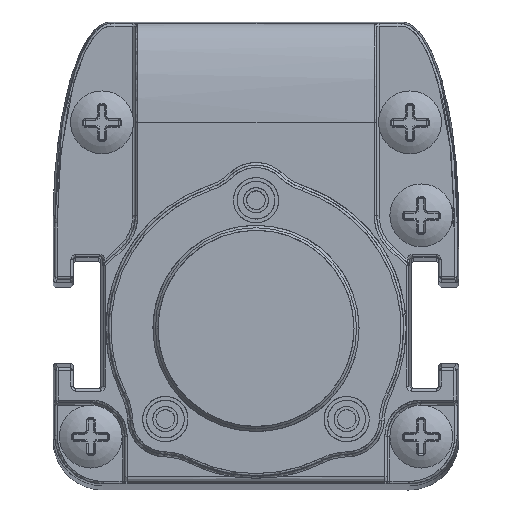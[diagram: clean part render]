
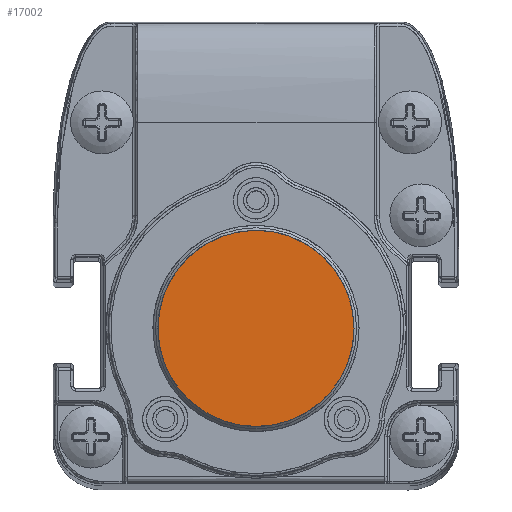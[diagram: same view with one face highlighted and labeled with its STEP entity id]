
A CAD part, top view. The second image highlights one B-rep face of the part: STEP entity #17002.
In plain terms, the highlighted planar face has unit normal (0, 0, 1).
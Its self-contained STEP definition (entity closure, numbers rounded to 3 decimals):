
#4976=FACE_OUTER_BOUND('',#19239,.T.);
#6383=PLANE('',#43173);
#17002=ADVANCED_FACE('',(#4976),#6383,.T.);
#19239=EDGE_LOOP('',(#24121));
#24121=ORIENTED_EDGE('',*,*,#33625,.T.);
#29073=VERTEX_POINT('',#72785);
#33625=EDGE_CURVE('',#29073,#29073,#38863,.T.);
#38863=B_SPLINE_CURVE_WITH_KNOTS('',3,(#72682,#72683,#72684,#72685,#72686,
#72687,#72688,#72689,#72690,#72691,#72692,#72693,#72694,#72695,#72696,#72697,
#72698,#72699,#72700,#72701,#72702,#72703,#72704,#72705,#72706,#72707,#72708,
#72709,#72710,#72711,#72712,#72713,#72714,#72715,#72716,#72717,#72718,#72719,
#72720,#72721,#72722,#72723,#72724,#72725,#72726,#72727,#72728,#72729,#72730,
#72731,#72732,#72733,#72734,#72735,#72736,#72737,#72738,#72739,#72740,#72741,
#72742,#72743,#72744,#72745,#72746,#72747,#72748,#72749,#72750,#72751,#72752,
#72753,#72754,#72755,#72756,#72757,#72758,#72759,#72760,#72761,#72762,#72763,
#72764,#72765,#72766,#72767,#72768,#72769,#72770,#72771,#72772,#72773,#72774,
#72775,#72776,#72777,#72778,#72779,#72780,#72781,#72782,#72783,#72784),
 .UNSPECIFIED.,.T.,.F.,(1,3,3,3,3,3,3,3,3,3,3,3,3,3,3,3,3,3,3,3,3,3,3,3,
3,3,3,3,3,3,3,3,3,3,3,3,1),(-0.029,0.,0.029,0.059,
0.088,0.118,0.147,0.176,
0.206,0.235,0.265,0.294,
0.324,0.353,0.382,0.412,
0.441,0.471,0.5,0.529,0.559,
0.588,0.618,0.647,0.676,
0.706,0.735,0.765,0.794,
0.824,0.853,0.882,0.912,
0.941,0.971,1.,1.029),.UNSPECIFIED.);
#43173=AXIS2_PLACEMENT_3D('',#72786,#47655,#47656);
#47655=DIRECTION('',(0.,0.,1.));
#47656=DIRECTION('',(1.,0.,0.));
#72682=CARTESIAN_POINT('',(7.8,0.,233.34));
#72683=CARTESIAN_POINT('',(7.8,0.465,233.34));
#72684=CARTESIAN_POINT('',(7.759,0.925,233.34));
#72685=CARTESIAN_POINT('',(7.679,1.376,233.34));
#72686=CARTESIAN_POINT('',(7.638,1.601,233.34));
#72687=CARTESIAN_POINT('',(7.588,1.825,233.34));
#72688=CARTESIAN_POINT('',(7.527,2.047,233.34));
#72689=CARTESIAN_POINT('',(7.466,2.269,233.34));
#72690=CARTESIAN_POINT('',(7.407,2.458,233.34));
#72691=CARTESIAN_POINT('',(7.315,2.708,233.34));
#72692=CARTESIAN_POINT('',(7.129,3.209,233.34));
#72693=CARTESIAN_POINT('',(6.898,3.683,233.34));
#72694=CARTESIAN_POINT('',(6.62,4.128,233.34));
#72695=CARTESIAN_POINT('',(6.343,4.573,233.34));
#72696=CARTESIAN_POINT('',(6.043,4.965,233.34));
#72697=CARTESIAN_POINT('',(5.651,5.376,233.34));
#72698=CARTESIAN_POINT('',(4.868,6.2,233.34));
#72699=CARTESIAN_POINT('',(3.912,6.837,233.34));
#72700=CARTESIAN_POINT('',(2.89,7.245,233.34));
#72701=CARTESIAN_POINT('',(2.378,7.449,233.34));
#72702=CARTESIAN_POINT('',(1.856,7.597,233.34));
#72703=CARTESIAN_POINT('',(1.324,7.689,233.34));
#72704=CARTESIAN_POINT('',(1.058,7.734,233.34));
#72705=CARTESIAN_POINT('',(0.79,7.766,233.34));
#72706=CARTESIAN_POINT('',(0.52,7.784,233.34));
#72707=CARTESIAN_POINT('',(0.249,7.801,233.34));
#72708=CARTESIAN_POINT('',(-0.055,7.804,233.34));
#72709=CARTESIAN_POINT('',(-0.3,7.794,233.34));
#72710=CARTESIAN_POINT('',(-0.79,7.775,233.34));
#72711=CARTESIAN_POINT('',(-1.271,7.712,233.34));
#72712=CARTESIAN_POINT('',(-1.742,7.604,233.34));
#72713=CARTESIAN_POINT('',(-2.213,7.496,233.34));
#72714=CARTESIAN_POINT('',(-2.713,7.327,233.34));
#72715=CARTESIAN_POINT('',(-3.123,7.147,233.34));
#72716=CARTESIAN_POINT('',(-3.534,6.968,233.34));
#72717=CARTESIAN_POINT('',(-3.924,6.757,233.34));
#72718=CARTESIAN_POINT('',(-4.293,6.513,233.34));
#72719=CARTESIAN_POINT('',(-4.477,6.392,233.34));
#72720=CARTESIAN_POINT('',(-4.656,6.262,233.34));
#72721=CARTESIAN_POINT('',(-4.83,6.125,233.34));
#72722=CARTESIAN_POINT('',(-5.004,5.987,233.34));
#72723=CARTESIAN_POINT('',(-5.15,5.864,233.34));
#72724=CARTESIAN_POINT('',(-5.337,5.688,233.34));
#72725=CARTESIAN_POINT('',(-5.712,5.337,233.34));
#72726=CARTESIAN_POINT('',(-6.047,4.956,233.34));
#72727=CARTESIAN_POINT('',(-6.341,4.545,233.34));
#72728=CARTESIAN_POINT('',(-6.635,4.134,233.34));
#72729=CARTESIAN_POINT('',(-6.869,3.738,233.34));
#72730=CARTESIAN_POINT('',(-7.102,3.226,233.34));
#72731=CARTESIAN_POINT('',(-7.567,2.203,233.34));
#72732=CARTESIAN_POINT('',(-7.8,1.124,233.34));
#72733=CARTESIAN_POINT('',(-7.8,0.,233.34));
#72734=CARTESIAN_POINT('',(-7.8,-0.562,233.34));
#72735=CARTESIAN_POINT('',(-7.742,-1.113,233.34));
#72736=CARTESIAN_POINT('',(-7.625,-1.651,233.34));
#72737=CARTESIAN_POINT('',(-7.509,-2.189,233.34));
#72738=CARTESIAN_POINT('',(-7.314,-2.758,233.34));
#72739=CARTESIAN_POINT('',(-7.102,-3.226,233.34));
#72740=CARTESIAN_POINT('',(-6.889,-3.694,233.34));
#72741=CARTESIAN_POINT('',(-6.636,-4.134,233.34));
#72742=CARTESIAN_POINT('',(-6.341,-4.544,233.34));
#72743=CARTESIAN_POINT('',(-6.194,-4.75,233.34));
#72744=CARTESIAN_POINT('',(-6.037,-4.947,233.34));
#72745=CARTESIAN_POINT('',(-5.87,-5.138,233.34));
#72746=CARTESIAN_POINT('',(-5.702,-5.329,233.34));
#72747=CARTESIAN_POINT('',(-5.5,-5.535,233.34));
#72748=CARTESIAN_POINT('',(-5.337,-5.688,233.34));
#72749=CARTESIAN_POINT('',(-5.01,-5.995,233.34));
#72750=CARTESIAN_POINT('',(-4.662,-6.27,233.34));
#72751=CARTESIAN_POINT('',(-4.293,-6.513,233.34));
#72752=CARTESIAN_POINT('',(-3.924,-6.756,233.34));
#72753=CARTESIAN_POINT('',(-3.573,-6.951,233.34));
#72754=CARTESIAN_POINT('',(-3.123,-7.147,233.34));
#72755=CARTESIAN_POINT('',(-2.674,-7.344,233.34));
#72756=CARTESIAN_POINT('',(-2.213,-7.496,233.34));
#72757=CARTESIAN_POINT('',(-1.743,-7.604,233.34));
#72758=CARTESIAN_POINT('',(-1.507,-7.658,233.34));
#72759=CARTESIAN_POINT('',(-1.269,-7.701,233.34));
#72760=CARTESIAN_POINT('',(-1.029,-7.732,233.34));
#72761=CARTESIAN_POINT('',(-0.789,-7.764,233.34));
#72762=CARTESIAN_POINT('',(-0.575,-7.784,233.34));
#72763=CARTESIAN_POINT('',(-0.3,-7.794,233.34));
#72764=CARTESIAN_POINT('',(0.801,-7.837,233.34));
#72765=CARTESIAN_POINT('',(1.834,-7.666,233.34));
#72766=CARTESIAN_POINT('',(2.89,-7.245,233.34));
#72767=CARTESIAN_POINT('',(3.417,-7.035,233.34));
#72768=CARTESIAN_POINT('',(3.912,-6.774,233.34));
#72769=CARTESIAN_POINT('',(4.372,-6.462,233.34));
#72770=CARTESIAN_POINT('',(4.833,-6.15,233.34));
#72771=CARTESIAN_POINT('',(5.283,-5.763,233.34));
#72772=CARTESIAN_POINT('',(5.651,-5.376,233.34));
#72773=CARTESIAN_POINT('',(6.019,-4.989,233.34));
#72774=CARTESIAN_POINT('',(6.342,-4.573,233.34));
#72775=CARTESIAN_POINT('',(6.62,-4.128,233.34));
#72776=CARTESIAN_POINT('',(6.759,-3.906,233.34));
#72777=CARTESIAN_POINT('',(6.886,-3.676,233.34));
#72778=CARTESIAN_POINT('',(7.002,-3.44,233.34));
#72779=CARTESIAN_POINT('',(7.117,-3.203,233.34));
#72780=CARTESIAN_POINT('',(7.234,-2.926,233.34));
#72781=CARTESIAN_POINT('',(7.315,-2.708,233.34));
#72782=CARTESIAN_POINT('',(7.638,-1.835,233.34));
#72783=CARTESIAN_POINT('',(7.8,-0.933,233.34));
#72784=CARTESIAN_POINT('',(7.8,0.,233.34));
#72785=CARTESIAN_POINT('',(7.8,0.,233.34));
#72786=CARTESIAN_POINT('',(-8.9,-8.81,233.34));
